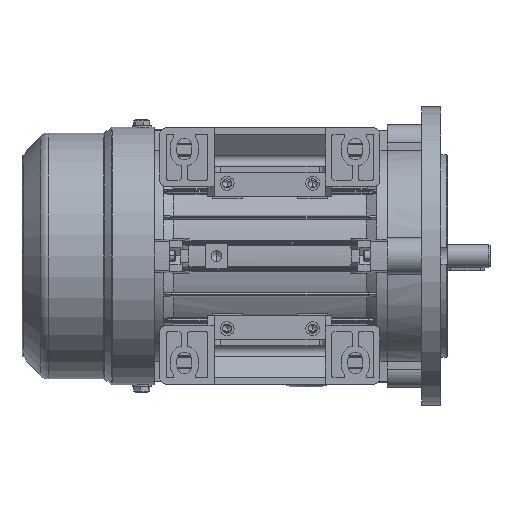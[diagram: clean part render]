
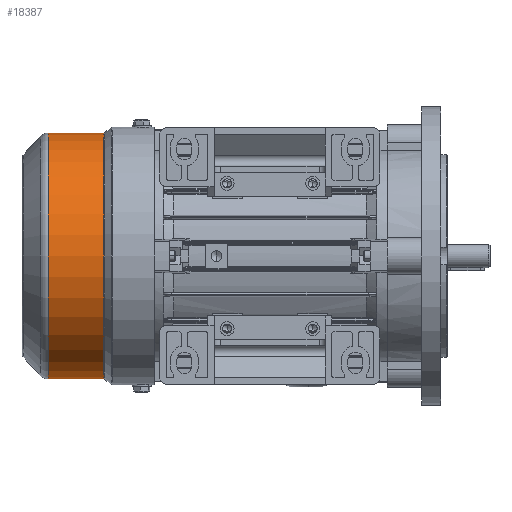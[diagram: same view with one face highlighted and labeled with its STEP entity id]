
A CAD part, front view. The second image highlights one B-rep face of the part: STEP entity #18387.
In plain terms, the highlighted cylindrical face has radius 57.5 mm (diameter 115 mm), a partial arc.
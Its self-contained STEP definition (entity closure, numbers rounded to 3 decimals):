
#3789 = CARTESIAN_POINT ( 'NONE',  ( 0., 0., 0. ) ) ;
#3794 = CARTESIAN_POINT ( 'NONE',  ( 0., 0., -57.5 ) ) ;
#5932 = EDGE_CURVE ( 'NONE', #78921, #41295, #64235, .T. ) ;
#6836 = CIRCLE ( 'NONE', #59358, 57.5 ) ;
#12313 = VERTEX_POINT ( 'NONE', #76475 ) ;
#18387 = ADVANCED_FACE ( 'NONE', ( #47572 ), #104645, .T. ) ;
#19869 = VECTOR ( 'NONE', #46832, 1000. ) ;
#22136 = ORIENTED_EDGE ( 'NONE', *, *, #60590, .F. ) ;
#27018 = ORIENTED_EDGE ( 'NONE', *, *, #99999, .T. ) ;
#28834 = DIRECTION ( 'NONE',  ( -1., 0., 0. ) ) ;
#29179 = DIRECTION ( 'NONE',  ( 0., 0., 1. ) ) ;
#30144 = EDGE_LOOP ( 'NONE', ( #22136, #42875, #103204, #27018 ) ) ;
#33965 = DIRECTION ( 'NONE',  ( 1., 0., 0. ) ) ;
#39090 = CARTESIAN_POINT ( 'NONE',  ( 0., 0., 57.5 ) ) ;
#41295 = VERTEX_POINT ( 'NONE', #101959 ) ;
#42875 = ORIENTED_EDGE ( 'NONE', *, *, #63238, .T. ) ;
#46832 = DIRECTION ( 'NONE',  ( -1., 0., 0. ) ) ;
#47572 = FACE_OUTER_BOUND ( 'NONE', #30144, .T. ) ;
#47861 = VERTEX_POINT ( 'NONE', #72260 ) ;
#52909 = LINE ( 'NONE', #3794, #71949 ) ;
#55453 = AXIS2_PLACEMENT_3D ( 'NONE', #3789, #28834, #29179 ) ;
#58190 = CARTESIAN_POINT ( 'NONE',  ( 36.149, 0., 57.5 ) ) ;
#59358 = AXIS2_PLACEMENT_3D ( 'NONE', #66575, #33965, #65846 ) ;
#60047 = DIRECTION ( 'NONE',  ( -1., 0., 0. ) ) ;
#60590 = EDGE_CURVE ( 'NONE', #47861, #12313, #52909, .T. ) ;
#63238 = EDGE_CURVE ( 'NONE', #47861, #78921, #102044, .T. ) ;
#64235 = LINE ( 'NONE', #39090, #19869 ) ;
#65846 = DIRECTION ( 'NONE',  ( 0., 0., -1. ) ) ;
#66575 = CARTESIAN_POINT ( 'NONE',  ( 10.193, 0., 0. ) ) ;
#71949 = VECTOR ( 'NONE', #60047, 1000. ) ;
#72260 = CARTESIAN_POINT ( 'NONE',  ( 36.149, 0., -57.5 ) ) ;
#76475 = CARTESIAN_POINT ( 'NONE',  ( 10.193, 0., -57.5 ) ) ;
#78921 = VERTEX_POINT ( 'NONE', #58190 ) ;
#85854 = CARTESIAN_POINT ( 'NONE',  ( 36.149, 0., 0. ) ) ;
#92372 = AXIS2_PLACEMENT_3D ( 'NONE', #85854, #102171, #93699 ) ;
#93699 = DIRECTION ( 'NONE',  ( 0., 0., 1. ) ) ;
#99999 = EDGE_CURVE ( 'NONE', #41295, #12313, #6836, .T. ) ;
#101959 = CARTESIAN_POINT ( 'NONE',  ( 10.193, 0., 57.5 ) ) ;
#102044 = CIRCLE ( 'NONE', #92372, 57.5 ) ;
#102171 = DIRECTION ( 'NONE',  ( -1., 0., 0. ) ) ;
#103204 = ORIENTED_EDGE ( 'NONE', *, *, #5932, .T. ) ;
#104645 = CYLINDRICAL_SURFACE ( 'NONE', #55453, 57.5 ) ;
